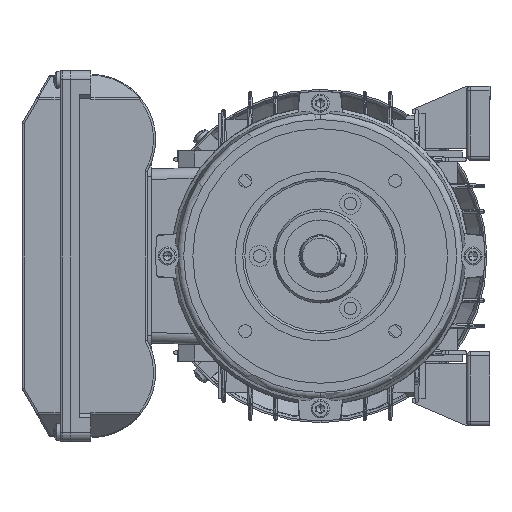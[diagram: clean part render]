
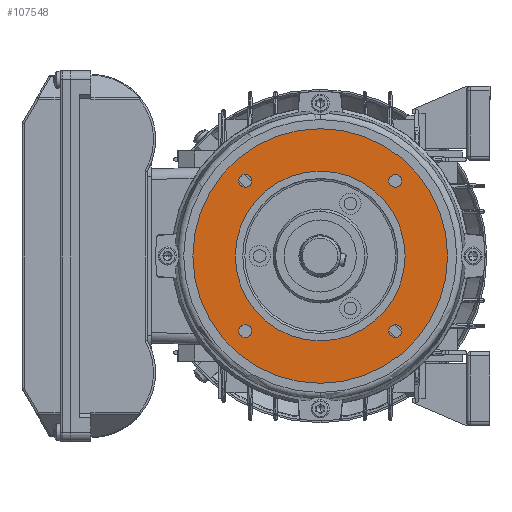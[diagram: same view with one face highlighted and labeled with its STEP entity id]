
A CAD part, left-side view. The second image highlights one B-rep face of the part: STEP entity #107548.
In plain terms, the highlighted planar face has unit normal (-1, 0, 0).
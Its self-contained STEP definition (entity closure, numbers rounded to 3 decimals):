
#4667 = DIRECTION ( 'NONE',  ( 0., 0., 1. ) ) ;
#5978 = ORIENTED_EDGE ( 'NONE', *, *, #99610, .T. ) ;
#6600 = EDGE_CURVE ( 'NONE', #104078, #42287, #94657, .T. ) ;
#7034 = ORIENTED_EDGE ( 'NONE', *, *, #73337, .F. ) ;
#7866 = ORIENTED_EDGE ( 'NONE', *, *, #114712, .T. ) ;
#8229 = CARTESIAN_POINT ( 'NONE',  ( 3., -35.355, -32.355 ) ) ;
#9004 = AXIS2_PLACEMENT_3D ( 'NONE', #13013, #50426, #33252 ) ;
#10178 = DIRECTION ( 'NONE',  ( 1., 0., 0. ) ) ;
#10403 = EDGE_LOOP ( 'NONE', ( #25131, #79398 ) ) ;
#13013 = CARTESIAN_POINT ( 'NONE',  ( 3., 0., 0. ) ) ;
#13743 = CARTESIAN_POINT ( 'NONE',  ( 3., 0., -40. ) ) ;
#15220 = EDGE_CURVE ( 'NONE', #95710, #41302, #81391, .T. ) ;
#17206 = CARTESIAN_POINT ( 'NONE',  ( 3., 35.355, 38.355 ) ) ;
#17385 = CARTESIAN_POINT ( 'NONE',  ( 3., 35.355, 32.355 ) ) ;
#17676 = EDGE_LOOP ( 'NONE', ( #43765, #121937 ) ) ;
#17833 = FACE_BOUND ( 'NONE', #10403, .T. ) ;
#18748 = EDGE_LOOP ( 'NONE', ( #42305, #7034 ) ) ;
#18951 = AXIS2_PLACEMENT_3D ( 'NONE', #116366, #117597, #107152 ) ;
#19582 = VERTEX_POINT ( 'NONE', #36967 ) ;
#20368 = CIRCLE ( 'NONE', #24081, 3. ) ;
#21342 = CARTESIAN_POINT ( 'NONE',  ( 3., 0., 0. ) ) ;
#21797 = DIRECTION ( 'NONE',  ( 1., 0., 0. ) ) ;
#21883 = CIRCLE ( 'NONE', #75780, 3. ) ;
#22756 = DIRECTION ( 'NONE',  ( 1., 0., 0. ) ) ;
#23659 = CIRCLE ( 'NONE', #89193, 3. ) ;
#24081 = AXIS2_PLACEMENT_3D ( 'NONE', #114869, #124553, #124134 ) ;
#25131 = ORIENTED_EDGE ( 'NONE', *, *, #120550, .T. ) ;
#29023 = VERTEX_POINT ( 'NONE', #44658 ) ;
#29942 = FACE_OUTER_BOUND ( 'NONE', #92736, .T. ) ;
#31910 = AXIS2_PLACEMENT_3D ( 'NONE', #81257, #91314, #109945 ) ;
#32466 = DIRECTION ( 'NONE',  ( 0., 0., -1. ) ) ;
#33252 = DIRECTION ( 'NONE',  ( 0., 0., 1. ) ) ;
#33431 = AXIS2_PLACEMENT_3D ( 'NONE', #86553, #39369, #49025 ) ;
#36967 = CARTESIAN_POINT ( 'NONE',  ( 3., -35.355, 38.355 ) ) ;
#38456 = CIRCLE ( 'NONE', #111485, 3. ) ;
#39369 = DIRECTION ( 'NONE',  ( -1., 0., 0. ) ) ;
#41302 = VERTEX_POINT ( 'NONE', #17385 ) ;
#42287 = VERTEX_POINT ( 'NONE', #124018 ) ;
#42305 = ORIENTED_EDGE ( 'NONE', *, *, #113992, .F. ) ;
#42480 = CARTESIAN_POINT ( 'NONE',  ( 3., 35.355, -35.355 ) ) ;
#43004 = EDGE_CURVE ( 'NONE', #29023, #67532, #21883, .T. ) ;
#43209 = EDGE_CURVE ( 'NONE', #69751, #19582, #20368, .T. ) ;
#43765 = ORIENTED_EDGE ( 'NONE', *, *, #43209, .T. ) ;
#44658 = CARTESIAN_POINT ( 'NONE',  ( 3., 35.355, -38.355 ) ) ;
#48379 = CARTESIAN_POINT ( 'NONE',  ( 3., 35.355, -35.355 ) ) ;
#49025 = DIRECTION ( 'NONE',  ( 0., 0., 1. ) ) ;
#50426 = DIRECTION ( 'NONE',  ( -1., 0., 0. ) ) ;
#51469 = CARTESIAN_POINT ( 'NONE',  ( 3., -35.355, -35.355 ) ) ;
#52099 = DIRECTION ( 'NONE',  ( 0., 0., -1. ) ) ;
#52422 = FACE_BOUND ( 'NONE', #18748, .T. ) ;
#56382 = CARTESIAN_POINT ( 'NONE',  ( 3., 0., -60. ) ) ;
#56847 = DIRECTION ( 'NONE',  ( 0., 0., -1. ) ) ;
#57610 = DIRECTION ( 'NONE',  ( 0., 0., -1. ) ) ;
#58319 = CARTESIAN_POINT ( 'NONE',  ( 3., 0., 40. ) ) ;
#58874 = DIRECTION ( 'NONE',  ( 1., 0., 0. ) ) ;
#61610 = CIRCLE ( 'NONE', #33431, 40. ) ;
#62937 = VERTEX_POINT ( 'NONE', #58319 ) ;
#65057 = EDGE_CURVE ( 'NONE', #109025, #88309, #104905, .T. ) ;
#65993 = CIRCLE ( 'NONE', #97277, 3. ) ;
#67532 = VERTEX_POINT ( 'NONE', #80728 ) ;
#67963 = ORIENTED_EDGE ( 'NONE', *, *, #15220, .T. ) ;
#69424 = PLANE ( 'NONE',  #78113 ) ;
#69751 = VERTEX_POINT ( 'NONE', #83502 ) ;
#70174 = DIRECTION ( 'NONE',  ( 0., 0., 1. ) ) ;
#70941 = ORIENTED_EDGE ( 'NONE', *, *, #65057, .T. ) ;
#71362 = EDGE_CURVE ( 'NONE', #19582, #69751, #38456, .T. ) ;
#71581 = DIRECTION ( 'NONE',  ( 1., 0., 0. ) ) ;
#72103 = DIRECTION ( 'NONE',  ( -1., 0., 0. ) ) ;
#73337 = EDGE_CURVE ( 'NONE', #117303, #62937, #107478, .T. ) ;
#73694 = FACE_BOUND ( 'NONE', #95899, .T. ) ;
#75780 = AXIS2_PLACEMENT_3D ( 'NONE', #42480, #71581, #52099 ) ;
#78113 = AXIS2_PLACEMENT_3D ( 'NONE', #79088, #21797, #98876 ) ;
#79088 = CARTESIAN_POINT ( 'NONE',  ( 3., 40., 0. ) ) ;
#79398 = ORIENTED_EDGE ( 'NONE', *, *, #6600, .T. ) ;
#80728 = CARTESIAN_POINT ( 'NONE',  ( 3., 35.355, -32.355 ) ) ;
#81257 = CARTESIAN_POINT ( 'NONE',  ( 3., -35.355, -35.355 ) ) ;
#81391 = CIRCLE ( 'NONE', #18951, 3. ) ;
#82162 = CARTESIAN_POINT ( 'NONE',  ( 3., 0., 0. ) ) ;
#83502 = CARTESIAN_POINT ( 'NONE',  ( 3., -35.355, 32.355 ) ) ;
#86553 = CARTESIAN_POINT ( 'NONE',  ( 3., 0., 0. ) ) ;
#87199 = FACE_BOUND ( 'NONE', #87512, .T. ) ;
#87512 = EDGE_LOOP ( 'NONE', ( #114216, #7866 ) ) ;
#88309 = VERTEX_POINT ( 'NONE', #56382 ) ;
#88682 = DIRECTION ( 'NONE',  ( -1., 0., 0. ) ) ;
#89015 = DIRECTION ( 'NONE',  ( 1., 0., 0. ) ) ;
#89193 = AXIS2_PLACEMENT_3D ( 'NONE', #114632, #10178, #56847 ) ;
#89683 = CARTESIAN_POINT ( 'NONE',  ( 3., -35.355, 35.355 ) ) ;
#91314 = DIRECTION ( 'NONE',  ( 1., 0., 0. ) ) ;
#92736 = EDGE_LOOP ( 'NONE', ( #70941, #97367 ) ) ;
#93247 = FACE_BOUND ( 'NONE', #17676, .T. ) ;
#94657 = CIRCLE ( 'NONE', #31910, 3. ) ;
#95710 = VERTEX_POINT ( 'NONE', #17206 ) ;
#95899 = EDGE_LOOP ( 'NONE', ( #5978, #67963 ) ) ;
#97277 = AXIS2_PLACEMENT_3D ( 'NONE', #48379, #58874, #57610 ) ;
#97367 = ORIENTED_EDGE ( 'NONE', *, *, #123179, .T. ) ;
#97795 = CIRCLE ( 'NONE', #101194, 60. ) ;
#98876 = DIRECTION ( 'NONE',  ( 0., 0., -1. ) ) ;
#99610 = EDGE_CURVE ( 'NONE', #41302, #95710, #23659, .T. ) ;
#101194 = AXIS2_PLACEMENT_3D ( 'NONE', #21342, #88682, #70174 ) ;
#104078 = VERTEX_POINT ( 'NONE', #8229 ) ;
#104905 = CIRCLE ( 'NONE', #119718, 60. ) ;
#107152 = DIRECTION ( 'NONE',  ( 0., 0., -1. ) ) ;
#107478 = CIRCLE ( 'NONE', #9004, 40. ) ;
#107548 = ADVANCED_FACE ( 'NONE', ( #73694, #93247, #17833, #87199, #52422, #29942 ), #69424, .F. ) ;
#109025 = VERTEX_POINT ( 'NONE', #111126 ) ;
#109945 = DIRECTION ( 'NONE',  ( 0., 0., -1. ) ) ;
#111126 = CARTESIAN_POINT ( 'NONE',  ( 3., 0., 60. ) ) ;
#111485 = AXIS2_PLACEMENT_3D ( 'NONE', #89683, #22756, #32466 ) ;
#113194 = AXIS2_PLACEMENT_3D ( 'NONE', #51469, #89015, #118070 ) ;
#113992 = EDGE_CURVE ( 'NONE', #62937, #117303, #61610, .T. ) ;
#114216 = ORIENTED_EDGE ( 'NONE', *, *, #43004, .T. ) ;
#114632 = CARTESIAN_POINT ( 'NONE',  ( 3., 35.355, 35.355 ) ) ;
#114712 = EDGE_CURVE ( 'NONE', #67532, #29023, #65993, .T. ) ;
#114869 = CARTESIAN_POINT ( 'NONE',  ( 3., -35.355, 35.355 ) ) ;
#116366 = CARTESIAN_POINT ( 'NONE',  ( 3., 35.355, 35.355 ) ) ;
#117303 = VERTEX_POINT ( 'NONE', #13743 ) ;
#117597 = DIRECTION ( 'NONE',  ( 1., 0., 0. ) ) ;
#118070 = DIRECTION ( 'NONE',  ( 0., 0., -1. ) ) ;
#119718 = AXIS2_PLACEMENT_3D ( 'NONE', #82162, #72103, #4667 ) ;
#120550 = EDGE_CURVE ( 'NONE', #42287, #104078, #123699, .T. ) ;
#121937 = ORIENTED_EDGE ( 'NONE', *, *, #71362, .T. ) ;
#123179 = EDGE_CURVE ( 'NONE', #88309, #109025, #97795, .T. ) ;
#123699 = CIRCLE ( 'NONE', #113194, 3. ) ;
#124018 = CARTESIAN_POINT ( 'NONE',  ( 3., -35.355, -38.355 ) ) ;
#124134 = DIRECTION ( 'NONE',  ( 0., 0., -1. ) ) ;
#124553 = DIRECTION ( 'NONE',  ( 1., 0., 0. ) ) ;
